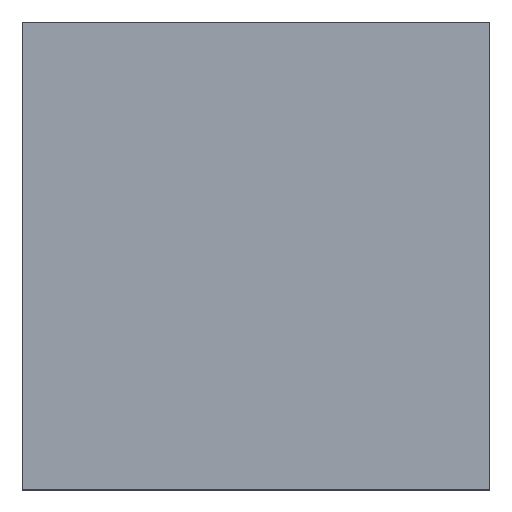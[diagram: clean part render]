
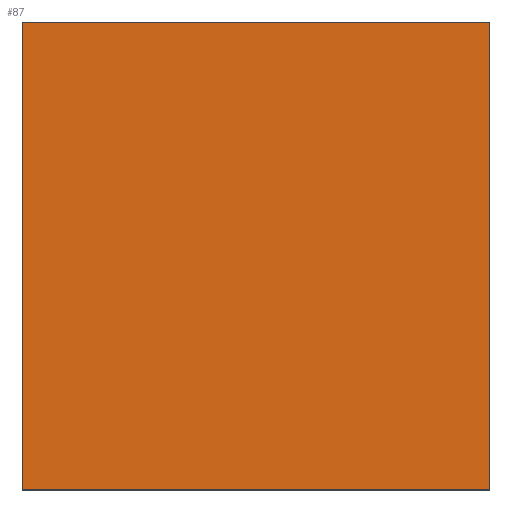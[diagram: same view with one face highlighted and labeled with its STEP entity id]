
A CAD part, top view. The second image highlights one B-rep face of the part: STEP entity #87.
In plain terms, the highlighted planar face has unit normal (0, 0, 1).
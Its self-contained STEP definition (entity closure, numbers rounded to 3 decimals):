
#87 = ADVANCED_FACE ( 'NONE', ( #979 ), #1281, .F. ) ;
#103 = CARTESIAN_POINT ( 'NONE',  ( 0., 0., 12.5 ) ) ;
#116 = VECTOR ( 'NONE', #445, 1000. ) ;
#141 = ORIENTED_EDGE ( 'NONE', *, *, #223, .T. ) ;
#215 = DIRECTION ( 'NONE',  ( -1., 0., 0. ) ) ;
#223 = EDGE_CURVE ( 'NONE', #568, #1006, #682, .T. ) ;
#234 = CARTESIAN_POINT ( 'NONE',  ( 0., 0., 12.5 ) ) ;
#283 = ORIENTED_EDGE ( 'NONE', *, *, #1108, .T. ) ;
#371 = ORIENTED_EDGE ( 'NONE', *, *, #730, .T. ) ;
#440 = DIRECTION ( 'NONE',  ( 0., 0., -1. ) ) ;
#445 = DIRECTION ( 'NONE',  ( 0., -1., 0. ) ) ;
#495 = VECTOR ( 'NONE', #675, 1000. ) ;
#509 = CARTESIAN_POINT ( 'NONE',  ( 50., 0., 12.5 ) ) ;
#533 = LINE ( 'NONE', #759, #1089 ) ;
#538 = CARTESIAN_POINT ( 'NONE',  ( 50., 0., 12.5 ) ) ;
#568 = VERTEX_POINT ( 'NONE', #891 ) ;
#569 = CARTESIAN_POINT ( 'NONE',  ( 50., 50., 12.5 ) ) ;
#592 = CARTESIAN_POINT ( 'NONE',  ( 0., 0., 12.5 ) ) ;
#615 = AXIS2_PLACEMENT_3D ( 'NONE', #644, #440, #661 ) ;
#644 = CARTESIAN_POINT ( 'NONE',  ( 0., 0., 12.5 ) ) ;
#646 = ORIENTED_EDGE ( 'NONE', *, *, #884, .T. ) ;
#661 = DIRECTION ( 'NONE',  ( -1., 0., 0. ) ) ;
#675 = DIRECTION ( 'NONE',  ( 1., 0., 0. ) ) ;
#682 = LINE ( 'NONE', #234, #116 ) ;
#730 = EDGE_CURVE ( 'NONE', #888, #1168, #949, .T. ) ;
#759 = CARTESIAN_POINT ( 'NONE',  ( 0., 50., 12.5 ) ) ;
#884 = EDGE_CURVE ( 'NONE', #1168, #568, #533, .T. ) ;
#888 = VERTEX_POINT ( 'NONE', #538 ) ;
#891 = CARTESIAN_POINT ( 'NONE',  ( 0., 50., 12.5 ) ) ;
#949 = LINE ( 'NONE', #509, #1133 ) ;
#962 = EDGE_LOOP ( 'NONE', ( #141, #283, #371, #646 ) ) ;
#979 = FACE_OUTER_BOUND ( 'NONE', #962, .T. ) ;
#1006 = VERTEX_POINT ( 'NONE', #103 ) ;
#1055 = DIRECTION ( 'NONE',  ( 0., 1., 0. ) ) ;
#1089 = VECTOR ( 'NONE', #215, 1000. ) ;
#1108 = EDGE_CURVE ( 'NONE', #1006, #888, #1238, .T. ) ;
#1133 = VECTOR ( 'NONE', #1055, 1000. ) ;
#1168 = VERTEX_POINT ( 'NONE', #569 ) ;
#1238 = LINE ( 'NONE', #592, #495 ) ;
#1281 = PLANE ( 'NONE',  #615 ) ;
